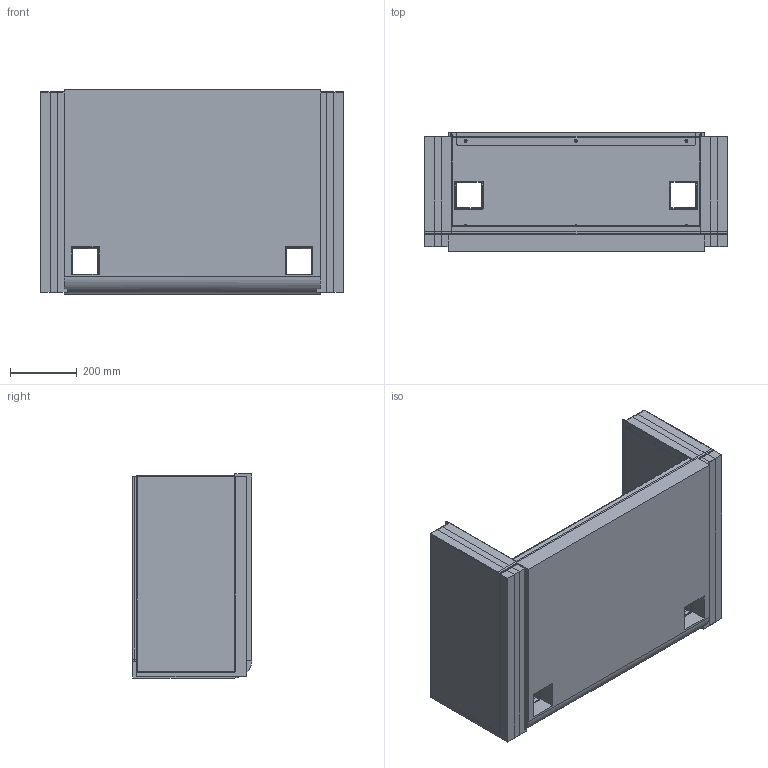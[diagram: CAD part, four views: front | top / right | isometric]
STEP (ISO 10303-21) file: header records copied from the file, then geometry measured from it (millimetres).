
FILE_DESCRIPTION(('CATIA V5 STEP Exchange','CAx-IF Rec.Pracs.--- Composite Materials ---3.4---2017-06-13'),'2;1');
FILE_NAME('C:\Users\MMAK\Documents\SmarTeam\WEBSITE CAD\LIJ\LIJ500.stp','2026-07-15T17:34:57+00:00',('none'),('none'),'CATIA Unofficial Packaging Version SP2','CATIA V5 STEP AP203 v2','none');
FILE_SCHEMA(('CONFIG_CONTROL_DESIGN'));
Length unit declared in the file: inch
Products named in the file (1): 81121 2
Assembly tree (83 placements, depth 2):
  81121 2
    #63  x66
    #565  x2
    #3001  x4
    #3183
    #4454
    #8619  x2
    #11191
    #12122
    #15397
    #19849
    #23243  x2
    #25823
Bounding box: 908.02 x 357.97 x 610.3 mm (x, y, z)
Volume: 76104994.2 mm3; surface area: 8723251 mm2
Topology: 83 solids, 83 shells, 2386 faces, 5348 edges, 3260 vertices
Faces by surface type: plane 1130, cylinder 976, torus 132, revolution 132, bspline 16
Entity records: 33579 total; most frequent: CARTESIAN_POINT 9172, ORIENTED_EDGE 5316, DIRECTION 3946, EDGE_CURVE 2658, VECTOR 1692, LINE 1692, VERTEX_POINT 1620, AXIS2_PLACEMENT_3D 1484
